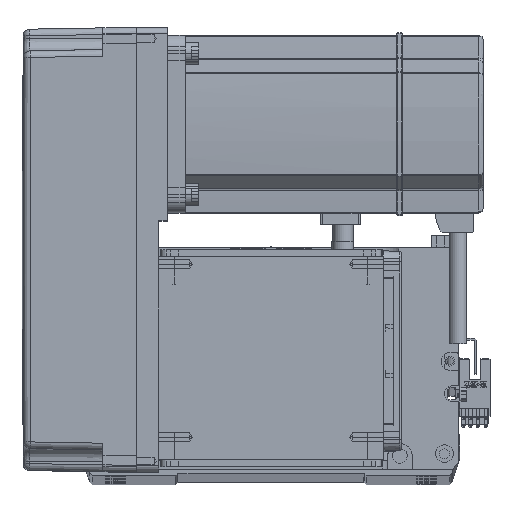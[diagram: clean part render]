
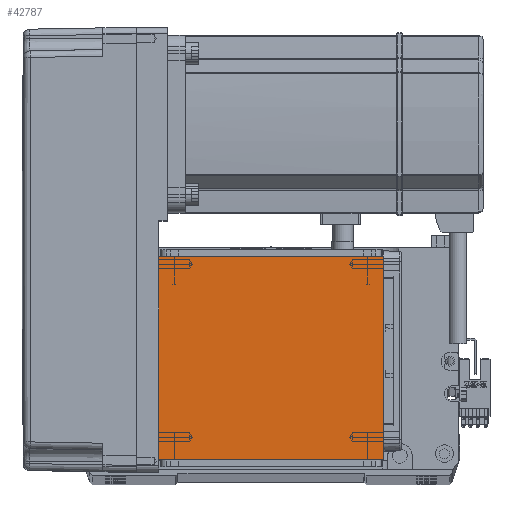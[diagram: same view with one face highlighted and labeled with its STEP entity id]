
A CAD part, top view. The second image highlights one B-rep face of the part: STEP entity #42787.
In plain terms, the highlighted planar face has unit normal (0, 0, 1).
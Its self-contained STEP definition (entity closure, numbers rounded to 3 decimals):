
#1192 = VECTOR ( 'NONE', #9649, 1000. ) ;
#2861 = VECTOR ( 'NONE', #13256, 1000. ) ;
#3805 = LINE ( 'NONE', #45491, #48489 ) ;
#4934 = LINE ( 'NONE', #17333, #54900 ) ;
#7159 = DIRECTION ( 'NONE',  ( 1., 0., 0. ) ) ;
#9649 = DIRECTION ( 'NONE',  ( 1., 0., 0. ) ) ;
#11070 = VERTEX_POINT ( 'NONE', #55323 ) ;
#11155 = VERTEX_POINT ( 'NONE', #23362 ) ;
#11376 = CARTESIAN_POINT ( 'NONE',  ( 0., 0., 115. ) ) ;
#11899 = LINE ( 'NONE', #61544, #2861 ) ;
#13256 = DIRECTION ( 'NONE',  ( -1., 0., 0. ) ) ;
#16834 = PLANE ( 'NONE',  #61799 ) ;
#17333 = CARTESIAN_POINT ( 'NONE',  ( -50.5, 122., 115. ) ) ;
#21731 = DIRECTION ( 'NONE',  ( 0., 0., 1. ) ) ;
#22007 = DIRECTION ( 'NONE',  ( 0., -1., 0. ) ) ;
#22663 = EDGE_CURVE ( 'NONE', #47443, #11155, #31527, .T. ) ;
#23227 = ORIENTED_EDGE ( 'NONE', *, *, #38396, .T. ) ;
#23362 = CARTESIAN_POINT ( 'NONE',  ( 50.5, 111.5, 115. ) ) ;
#30443 = ORIENTED_EDGE ( 'NONE', *, *, #52147, .F. ) ;
#31527 = LINE ( 'NONE', #34230, #1192 ) ;
#34230 = CARTESIAN_POINT ( 'NONE',  ( -70.004, 111.5, 115. ) ) ;
#35278 = EDGE_LOOP ( 'NONE', ( #57061, #60488, #30443, #23227 ) ) ;
#38396 = EDGE_CURVE ( 'NONE', #11070, #11155, #3805, .T. ) ;
#42787 = ADVANCED_FACE ( 'NONE', ( #57086 ), #16834, .T. ) ;
#45491 = CARTESIAN_POINT ( 'NONE',  ( 50.5, 122., 115. ) ) ;
#46064 = VERTEX_POINT ( 'NONE', #49297 ) ;
#47443 = VERTEX_POINT ( 'NONE', #54791 ) ;
#48489 = VECTOR ( 'NONE', #55658, 1000. ) ;
#48755 = EDGE_CURVE ( 'NONE', #47443, #46064, #4934, .T. ) ;
#49297 = CARTESIAN_POINT ( 'NONE',  ( -50.5, 20., 115. ) ) ;
#52147 = EDGE_CURVE ( 'NONE', #11070, #46064, #11899, .T. ) ;
#54791 = CARTESIAN_POINT ( 'NONE',  ( -50.5, 111.5, 115. ) ) ;
#54900 = VECTOR ( 'NONE', #22007, 1000. ) ;
#55323 = CARTESIAN_POINT ( 'NONE',  ( 50.5, 20., 115. ) ) ;
#55658 = DIRECTION ( 'NONE',  ( 0., 1., 0. ) ) ;
#57061 = ORIENTED_EDGE ( 'NONE', *, *, #22663, .F. ) ;
#57086 = FACE_OUTER_BOUND ( 'NONE', #35278, .T. ) ;
#60488 = ORIENTED_EDGE ( 'NONE', *, *, #48755, .T. ) ;
#61544 = CARTESIAN_POINT ( 'NONE',  ( -70.004, 20., 115. ) ) ;
#61799 = AXIS2_PLACEMENT_3D ( 'NONE', #11376, #21731, #7159 ) ;
